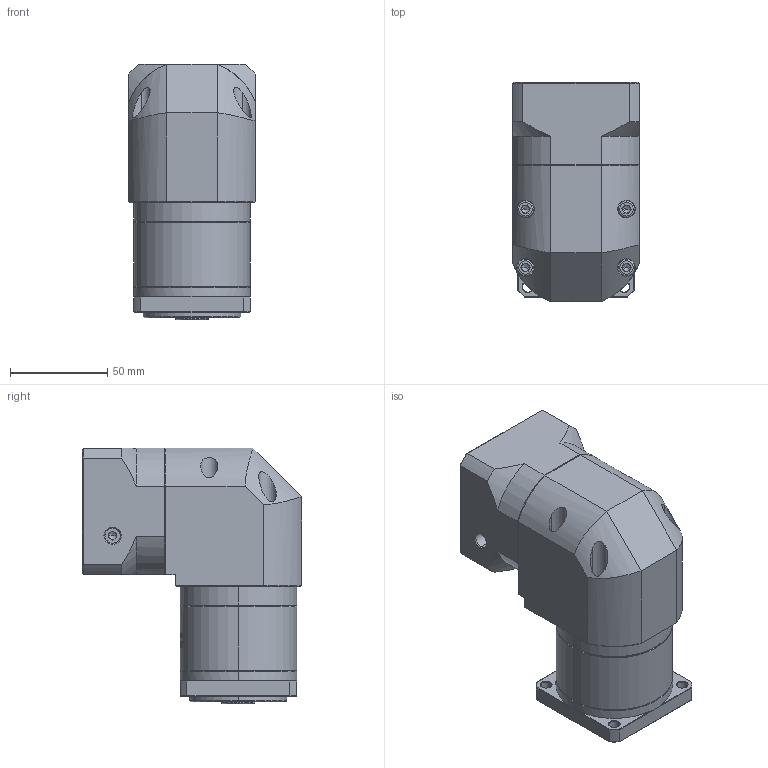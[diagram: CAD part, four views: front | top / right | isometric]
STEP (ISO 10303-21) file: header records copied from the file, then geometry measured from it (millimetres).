
FILE_DESCRIPTION (( 'STEP AP214' ), '1' );
FILE_NAME ('ZFR060-K10-L1-P2-14-60-75-M5.step', '2023-08-17T03:37:26', ( '' ), ( '' ), 'SwSTEP 2.0', 'SolidWorks 2016', '' );
FILE_SCHEMA (( 'AUTOMOTIVE_DESIGN' ));
Length unit declared in the file: millimetre
Products named in the file (1): ZFR060-K10-L1-P2-14-60-75-M5
Bounding box: 65 x 112.7 x 131.5 mm (x, y, z)
Volume: 544647.2 mm3; surface area: 78769.6 mm2
Topology: 5 solids, 6 shells, 1857 faces, 4983 edges, 3222 vertices
Faces by surface type: plane 840, cylinder 364, bspline 347, cone 282, torus 24
Entity records: 100276 total; most frequent: CARTESIAN_POINT 37225, ORIENTED_EDGE 9926, DIRECTION 7478, EDGE_CURVE 4963, VERTEX_POINT 3222, LINE 2554, VECTOR 2554, AXIS2_PLACEMENT_3D 2462
